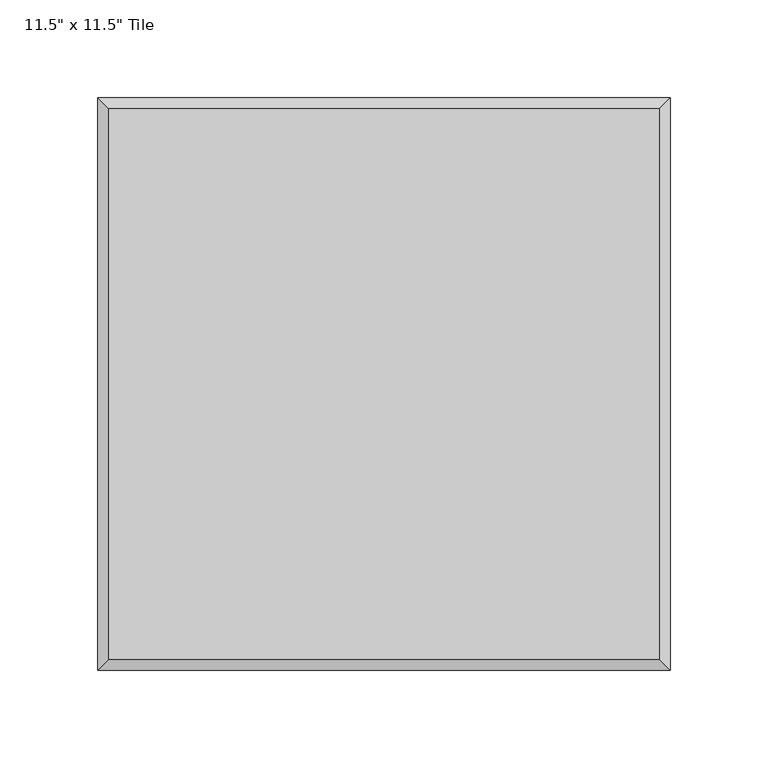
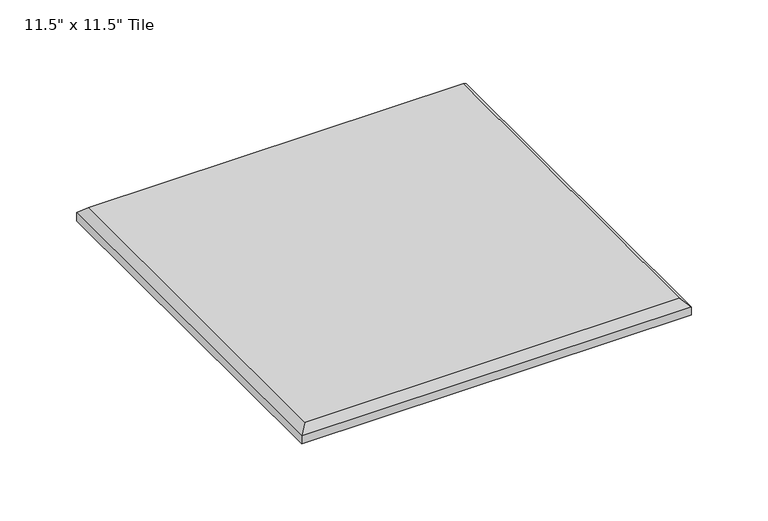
"""IFC4 building model written with IfcOpenShell, lengths in millimetres: proxy geometry."""

import ifcopenshell
import ifcopenshell.guid

model = None  # the IFC model being written
_history = None  # IfcOwnerHistory: only IFC2X3 demands one
_inside = {}  # id of a spatial element -> (the spatial element, [elements in it])
_under = {}  # id of a project, library or spatial element -> (it, [spatial elements below it])
_declared = {}  # id of a project -> (the project, [libraries it declares])
_typed = {}  # id of a type object -> (the type object, [elements of that type])
_made_of = {}  # id of a material, layer set ... -> (it, [elements and type objects made of it])


def new_model(schema):
    """Start an empty IFC model of exactly this schema.

    Asked for "IFC4X3", IfcOpenShell would pick the latest addendum, in which some entities
    have other attributes; the version numbers below select the first issue.
    IFC2X3 requires an IfcOwnerHistory on every rooted entity: one is made here for all.
    """
    global model, _history
    if schema == "IFC4X3":
        model = ifcopenshell.file(schema_version=(4, 3, 0, 0))
    else:
        model = ifcopenshell.file(schema=schema)
    _inside.clear()
    _under.clear()
    _declared.clear()
    _typed.clear()
    _made_of.clear()
    _history = None
    if model.schema == "IFC2X3":
        org = make("IfcOrganization", Name="unknown")
        user = make(
            "IfcPersonAndOrganization",
            ThePerson=make("IfcPerson", FamilyName="unknown"),
            TheOrganization=org,
        )
        app = make(
            "IfcApplication",
            ApplicationDeveloper=org,
            Version="unknown",
            ApplicationFullName="unknown",
            ApplicationIdentifier="unknown",
        )
        _history = make(
            "IfcOwnerHistory",
            OwningUser=user,
            OwningApplication=app,
            ChangeAction="ADDED",
            CreationDate=0,
        )
    return model


def make(cls, **values):
    """One entity of the class cls with the attributes given. An attribute that is None is left unset."""
    return model.create_entity(
        cls, **{name: value for name, value in values.items() if value is not None}
    )


def rooted(cls, **values):
    """An entity with a GlobalId (a new one), such as an element, a storey or a relation."""
    return make(cls, GlobalId=ifcopenshell.guid.new(), OwnerHistory=_history, **values)


def si_unit(unit_type, name, prefix=None):
    """IfcSIUnit, for example si_unit("LENGTHUNIT", "METRE", prefix="MILLI")."""
    return make("IfcSIUnit", UnitType=unit_type, Prefix=prefix, Name=name)


def assignment(units):
    """IfcUnitAssignment: the units of a project."""
    return None if units is None else make("IfcUnitAssignment", Units=units)


def point(xyz):
    """IfcCartesianPoint."""
    return None if xyz is None else make("IfcCartesianPoint", Coordinates=xyz)


def direction(xyz):
    """IfcDirection."""
    return None if xyz is None else make("IfcDirection", DirectionRatios=xyz)


def frame(location, z_axis=None, x_axis=None):
    """IfcAxis2Placement3D, a coordinate frame: its origin and axes. An axis left out is left unset."""
    return make(
        "IfcAxis2Placement3D",
        Location=point(location),
        Axis=direction(z_axis),
        RefDirection=direction(x_axis),
    )


def origin():
    """The frame at (0, 0, 0) with its axes left unset."""
    return frame((0.0, 0.0, 0.0))


def place(relative_to, where):
    """IfcLocalPlacement: puts the frame where relative to a parent placement (None: the world)."""
    return make(
        "IfcLocalPlacement", PlacementRelTo=relative_to, RelativePlacement=where
    )


def context(
    kind, dimensions, precision=None, world=None, true_north=None, identifier=None
):
    """IfcGeometricRepresentationContext, for example the 3D "Model" context."""
    return make(
        "IfcGeometricRepresentationContext",
        ContextIdentifier=identifier,
        ContextType=kind,
        CoordinateSpaceDimension=dimensions,
        Precision=precision,
        WorldCoordinateSystem=world,
        TrueNorth=true_north,
    )


def project(units=None, contexts=None):
    """IfcProject with its units and contexts."""
    return rooted(
        "IfcProject",
        Name="project",
        RepresentationContexts=contexts,
        UnitsInContext=assignment(units),
    )


def spatial(cls, under=None, at=None, **own):
    """A site, building, storey or space (cls), placed at a placement, below another one or the project."""
    s = rooted(cls, ObjectPlacement=at, **own)
    if under is not None:
        _under.setdefault(under.id(), (under, []))[1].append(s)
    return s


def faces_of(points, faces, orient=None, outer=None):
    """IfcFace entities. A face is a list of loops; a loop is a list of indices into points, from 0.

    orient and outer hold one flag for each loop. By default every Orientation is true, the
    first loop of a face is its IfcFaceOuterBound and the others are IfcFaceBound.
    """
    made = []
    for i, loops in enumerate(faces):
        bounds = []
        for j, loop in enumerate(loops):
            is_outer = j == 0 if outer is None else outer[i][j]
            bounds.append(
                make(
                    "IfcFaceOuterBound" if is_outer else "IfcFaceBound",
                    Bound=make("IfcPolyLoop", Polygon=[points[k] for k in loop]),
                    Orientation=True if orient is None else orient[i][j],
                )
            )
        made.append(make("IfcFace", Bounds=bounds))
    return made


def faceted_brep(points, faces, orient=None, outer=None, voids=None):
    """IfcFacetedBrep: a solid bounded by flat faces; with voids (closed shells), ...WithVoids."""
    shared = [point(p) for p in points]
    hull = make("IfcClosedShell", CfsFaces=faces_of(shared, faces, orient, outer))
    if voids is None:
        return make("IfcFacetedBrep", Outer=hull)
    return make(
        "IfcFacetedBrepWithVoids",
        Outer=hull,
        Voids=[
            make(cls, CfsFaces=faces_of(shared, fs, o, b)) for cls, fs, o, b in voids
        ],
    )


def shape(context_of_items, identifier, shape_type, items):
    """IfcShapeRepresentation: the items that make up one representation, for example the "Body"."""
    return make(
        "IfcShapeRepresentation",
        ContextOfItems=context_of_items,
        RepresentationIdentifier=identifier,
        RepresentationType=shape_type,
        Items=items,
    )


def source(mapping_origin, context_of_items, identifier, shape_type, items):
    """IfcRepresentationMap: a shape defined once, which mapped items show again and again."""
    return make(
        "IfcRepresentationMap",
        MappingOrigin=mapping_origin,
        MappedRepresentation=shape(context_of_items, identifier, shape_type, items),
    )


def transform(
    local_origin,
    x_axis=None,
    y_axis=None,
    z_axis=None,
    scale=None,
    scale2=None,
    scale3=None,
    uniform=True,
):
    """IfcCartesianTransformationOperator3D, or its non-uniform kind. x_axis, y_axis, z_axis: its Axis1, 2, 3."""
    if uniform:
        return make(
            "IfcCartesianTransformationOperator3D",
            Axis1=direction(x_axis),
            Axis2=direction(y_axis),
            LocalOrigin=point(local_origin),
            Scale=scale,
            Axis3=direction(z_axis),
        )
    return make(
        "IfcCartesianTransformationOperator3DnonUniform",
        Axis1=direction(x_axis),
        Axis2=direction(y_axis),
        LocalOrigin=point(local_origin),
        Scale=scale,
        Axis3=direction(z_axis),
        Scale2=scale2,
        Scale3=scale3,
    )


def mapped(mapping_source, mapping_target):
    """IfcMappedItem: shows the shape of a source again, moved by a transform."""
    return make(
        "IfcMappedItem", MappingSource=mapping_source, MappingTarget=mapping_target
    )


def made_of(thing, what):
    """Note that an element or type object is made of a material, layer set ...; save() writes the relation."""
    if what is not None:
        _made_of.setdefault(what.id(), (what, []))[1].append(thing)
    return thing


def element(
    cls,
    number,
    at=None,
    inside=None,
    cuts=None,
    type_object=None,
    material=None,
    context=None,
    identifier="Body",
    shape_type=None,
    held_by="IfcProductDefinitionShape",
    body=None,
    shapes=None,
    **own,
):
    """One element of the class cls, such as IfcWall. Its Tag is "e" and its number.

    at: its placement. inside: the storey or other place that contains it. cuts: it is an
    opening in that element (IfcRelVoidsElement). A single representation is given by context,
    identifier, shape_type and body (its items); several are given by shapes. held_by: the class
    of the entity that holds the representations. save() writes the other relations.
    """
    e = rooted(cls, Tag="e%d" % number, ObjectPlacement=at, **own)
    if body is not None:
        shapes = [shape(context, identifier, shape_type, body)]
    if shapes is not None:
        e.Representation = make(held_by, Representations=shapes)
    if inside is not None:
        _inside.setdefault(inside.id(), (inside, []))[1].append(e)
    if cuts is not None:
        rooted(
            "IfcRelVoidsElement", RelatingBuildingElement=cuts, RelatedOpeningElement=e
        )
    if type_object is not None:
        _typed.setdefault(type_object.id(), (type_object, []))[1].append(e)
    return made_of(e, material)


def aggregate(whole, parts):
    """IfcRelAggregates: a whole, such as a stair, and the parts it consists of."""
    return rooted("IfcRelAggregates", RelatingObject=whole, RelatedObjects=parts)


def save(model, path):
    """Write the relations noted so far, then the file.

    IfcRelAggregates (storeys below a building ...), IfcRelContainedInSpatialStructure (elements
    in a storey), IfcRelDefinesByType, IfcRelAssociatesMaterial and IfcRelDeclares: one each for
    every whole, place, type object, material and project.
    """
    for whole, parts in _under.values():
        aggregate(whole, parts)
    for where, things in _inside.values():
        rooted(
            "IfcRelContainedInSpatialStructure",
            RelatedElements=things,
            RelatingStructure=where,
        )
    for kind, things in _typed.values():
        rooted("IfcRelDefinesByType", RelatedObjects=things, RelatingType=kind)
    for what, things in _made_of.values():
        rooted("IfcRelAssociatesMaterial", RelatedObjects=things, RelatingMaterial=what)
    for by, libraries in _declared.values():
        rooted("IfcRelDeclares", RelatingContext=by, RelatedDefinitions=libraries)
    model.write(path)


def proxy_bc3ac1bf(model_context):
    return source(origin(), model_context, "Body", "Brep", [
        faceted_brep([(699.3445313, -140.5445313, 12.0054687), (699.3445313, 140.5445312, 12.0054687), (418.2554688, 140.5445312, 12.0054687), (418.2554688, -140.5445313, 12.0054687), (704.85, 146.05, 0.0), (704.85, -146.05, 0.0), (412.75, -146.05, 0.0), (412.75, 146.05, 0.0), (412.75, 146.05, 6.5), (704.85, 146.05, 6.5), (412.75, -146.05, 6.5), (704.85, -146.05, 6.5)], [[[0, 1, 2, 3]], [[4, 5, 6, 7]], [[4, 7, 8, 9]], [[7, 6, 10, 8]], [[6, 5, 11, 10]], [[5, 4, 9, 11]], [[9, 1, 0, 11]], [[1, 9, 8, 2]], [[2, 8, 10, 3]], [[11, 0, 3, 10]]]),
    ])


if __name__ == "__main__":
    model = new_model("IFC4")
    model_context = context("Model", 3, world=origin())
    ifc_project = project(units=[si_unit("LENGTHUNIT", "METRE", prefix="MILLI")], contexts=[model_context])
    site = spatial("IfcSite", under=ifc_project)
    building = spatial("IfcBuilding", under=site)
    placement = place(None, origin())
    proxy_shape = proxy_bc3ac1bf(model_context)
    element("IfcBuildingElementProxy", 1, Name="Wall-Panel-Kirei-EchoPanel-Echotile_Sync : 11.5\" x 11.5\" Tile", ObjectType="Wall-Panel-Kirei-EchoPanel-Echotile_Sync : 11.5\" x 11.5\" Tile", at=placement, inside=building, context=model_context, shape_type="MappedRepresentation", body=[
        mapped(proxy_shape, transform((0.0, 0.0, 0.0), x_axis=(1.0, 0.0, 0.0), y_axis=(0.0, 1.0, 0.0), z_axis=(0.0, 0.0, 1.0))),
    ])
    save(model, "model.ifc")
